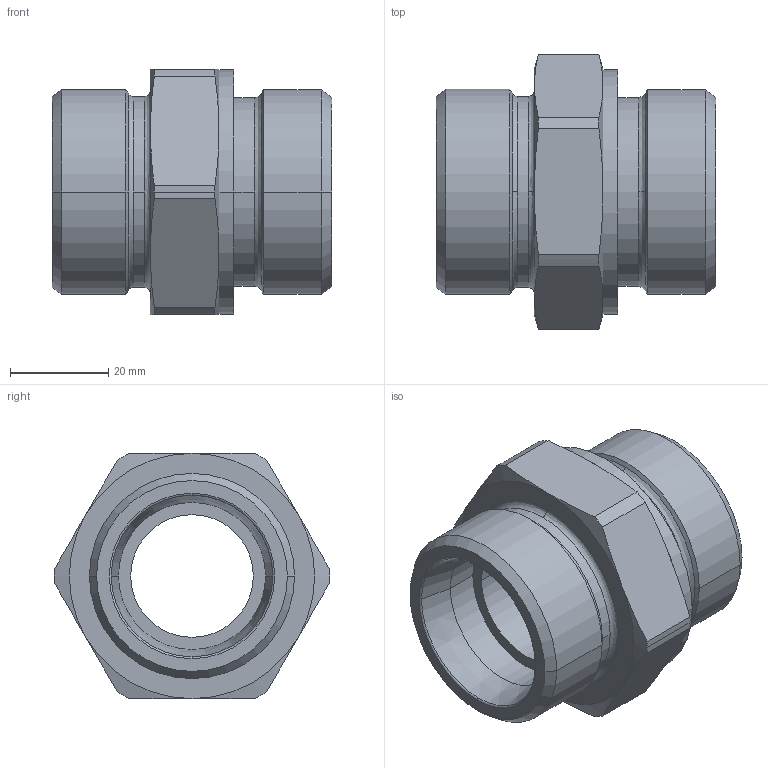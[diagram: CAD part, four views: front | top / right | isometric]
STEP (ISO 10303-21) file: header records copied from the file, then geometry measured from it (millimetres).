
FILE_DESCRIPTION((''),'2;1');
FILE_NAME('100522.stp','2007-10-30T14:15:22',(''),(''),'AutoCAD STEP 2000i','AutoCAD 2000i',', , ');
FILE_SCHEMA(('CONFIG_CONTROL_DESIGN'));
Length unit declared in the file: millimetre
Products named in the file (2): 100522.0; CHIAVE SMUSSATA#0
Assembly tree (1 placements, depth 2):
  100522.0
    CHIAVE SMUSSATA#0
Bounding box: 57 x 56.2 x 50 mm (x, y, z)
Volume: 55957.1 mm3; surface area: 16353.5 mm2
Topology: 1 solids, 1 shells, 75 faces, 185 edges, 117 vertices
Faces by surface type: cylinder 24, cone 24, plane 13, bspline 12, torus 2
Entity records: 2835 total; most frequent: CARTESIAN_POINT 955, DIRECTION 410, ORIENTED_EDGE 370, EDGE_CURVE 185, AXIS2_PLACEMENT_3D 184, CIRCLE 119, VERTEX_POINT 117, EDGE_LOOP 82
